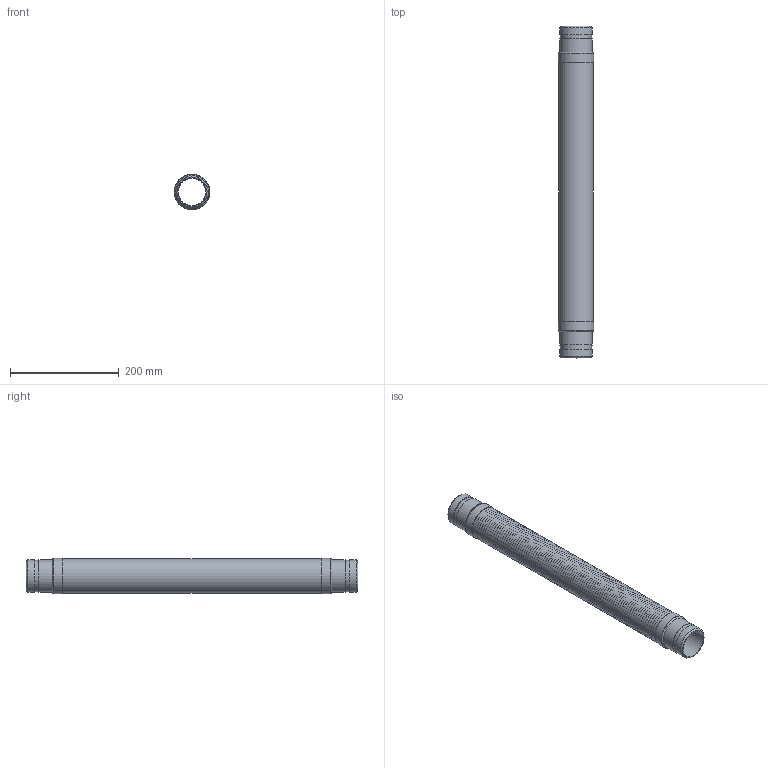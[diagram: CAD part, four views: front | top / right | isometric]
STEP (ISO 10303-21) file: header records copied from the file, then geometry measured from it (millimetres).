
FILE_DESCRIPTION((''),'2;1');
FILE_NAME('C:\2012_Work\Designs\GWN\GWN-2x24.stp','2013-08-13T11:29:33',('KShiels'),(''),'Autodesk Inventor 2012','Autodesk Inventor 2012','');
FILE_SCHEMA(('AUTOMOTIVE_DESIGN { 1 0 10303 214 1 1 1 1 }'));
Length unit declared in the file: inch
Products named in the file (6): GWN-2x24; GWN-2x24_Welds; A-30109-4_2in_GN-BRAID; A-30109-4_2in_GN-BELLOWS; A-30109-4_2in_GN-BRAID-COLLAR; A-30109-4_2in_GN-GROOVED_NIPPLE
Assembly tree (7 placements, depth 2):
  GWN-2x24
    GWN-2x24_Welds
    A-30109-4_2in_GN-BRAID
    A-30109-4_2in_GN-BELLOWS
    A-30109-4_2in_GN-BRAID-COLLAR  x2
    A-30109-4_2in_GN-GROOVED_NIPPLE  x2
Bounding box: 65.17 x 609.6 x 65.17 mm (x, y, z)
Volume: 185522 mm3; surface area: 722526.9 mm2
Topology: 8 solids, 8 shells, 816 faces, 1236 edges, 826 vertices
Faces by surface type: plane 406, torus 390, cylinder 16, bspline 2, cone 2
Full cylindrical faces by diameter (mm): 52.502 x2, 57.15 x2, 60.325 x6, 61.976 x1, 62.789 x3, 65.17 x2
Entity records: 16811 total; most frequent: DIRECTION 3226, CARTESIAN_POINT 2932, ORIENTED_EDGE 1618, AXIS2_PLACEMENT_3D 1613, EDGE_LOOP 1604, EDGE_CURVE 809, VERTEX_POINT 807, FACE_OUTER_BOUND 803
